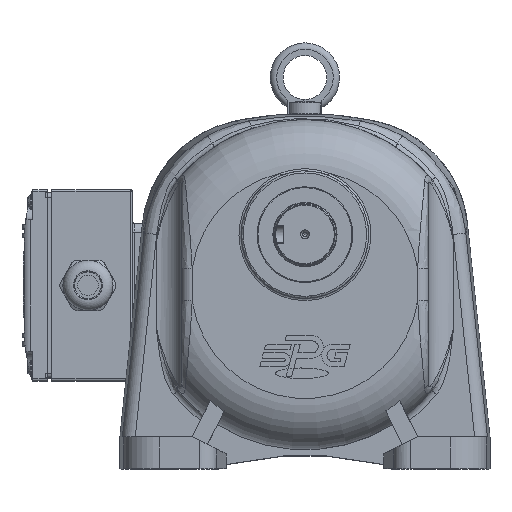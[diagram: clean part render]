
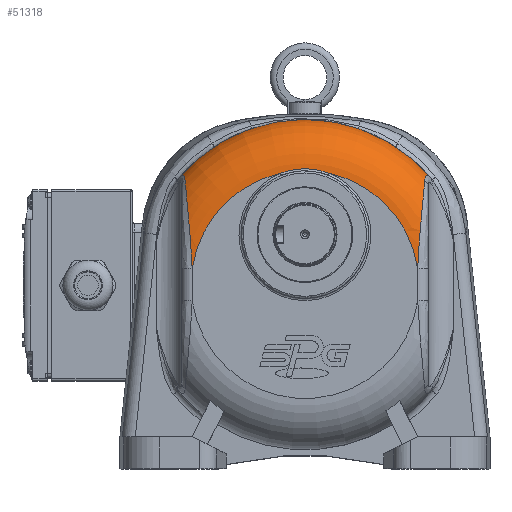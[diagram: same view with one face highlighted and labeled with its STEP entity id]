
A CAD part, top view. The second image highlights one B-rep face of the part: STEP entity #51318.
In plain terms, the highlighted toroidal (fillet/blend) face has major radius 53.545 mm and minor radius 24 mm.
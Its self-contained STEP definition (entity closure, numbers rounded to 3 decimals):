
#158=TOROIDAL_SURFACE('',#55673,53.545,24.);
#527=B_SPLINE_CURVE_WITH_KNOTS('',3,(#81958,#81959,#81960,#81961,#81962),
 .UNSPECIFIED.,.F.,.F.,(4,1,4),(-3.142,-0.449,3.142),
 .UNSPECIFIED.);
#541=B_SPLINE_CURVE_WITH_KNOTS('',3,(#82587,#82588,#82589,#82590,#82591,
#82592,#82593),.UNSPECIFIED.,.F.,.F.,(4,1,1,1,4),(-0.961,-0.686,
-0.412,-0.275,0.),.UNSPECIFIED.);
#543=B_SPLINE_CURVE_WITH_KNOTS('',3,(#82715,#82716,#82717,#82718,#82719,
#82720,#82721,#82722,#82723),.UNSPECIFIED.,.F.,.F.,(4,1,1,1,1,1,4),(-4.098,
-2.927,-2.342,-1.756,-1.171,
-0.585,0.),.UNSPECIFIED.);
#552=B_SPLINE_CURVE_WITH_KNOTS('',3,(#82978,#82979,#82980,#82981,#82982,
#82983,#82984,#82985,#82986),.UNSPECIFIED.,.F.,.F.,(4,1,1,1,1,1,4),(-9.723,
-9.138,-8.553,-7.967,-7.382,
-6.796,-5.626),.UNSPECIFIED.);
#554=B_SPLINE_CURVE_WITH_KNOTS('',3,(#83082,#83083,#83084,#83085,#83086,
#83087,#83088),.UNSPECIFIED.,.F.,.F.,(4,1,1,1,4),(-0.961,-0.686,
-0.412,-0.275,0.),.UNSPECIFIED.);
#11603=FACE_OUTER_BOUND('',#14873,.T.);
#14873=EDGE_LOOP('',(#37387,#37388,#37389,#37390,#37391,#37392,#37393,#37394));
#18331=CIRCLE('',#55565,53.545);
#18333=CIRCLE('',#55567,53.545);
#18398=CIRCLE('',#55672,77.539);
#21979=VERTEX_POINT('',#81750);
#21981=VERTEX_POINT('',#81753);
#21982=VERTEX_POINT('',#81755);
#21983=VERTEX_POINT('',#81757);
#22094=VERTEX_POINT('',#82584);
#22095=VERTEX_POINT('',#82586);
#22107=VERTEX_POINT('',#82976);
#22108=VERTEX_POINT('',#83080);
#27526=EDGE_CURVE('',#21981,#21979,#18331,.T.);
#27528=EDGE_CURVE('',#21983,#21982,#18333,.T.);
#27611=EDGE_CURVE('',#21981,#21982,#527,.T.);
#27660=EDGE_CURVE('',#22094,#22095,#541,.T.);
#27665=EDGE_CURVE('',#21983,#22094,#543,.T.);
#27682=EDGE_CURVE('',#22107,#21979,#552,.T.);
#27686=EDGE_CURVE('',#22108,#22107,#554,.T.);
#27728=EDGE_CURVE('',#22108,#22095,#18398,.T.);
#37387=ORIENTED_EDGE('',*,*,#27728,.T.);
#37388=ORIENTED_EDGE('',*,*,#27660,.F.);
#37389=ORIENTED_EDGE('',*,*,#27665,.F.);
#37390=ORIENTED_EDGE('',*,*,#27528,.T.);
#37391=ORIENTED_EDGE('',*,*,#27611,.F.);
#37392=ORIENTED_EDGE('',*,*,#27526,.T.);
#37393=ORIENTED_EDGE('',*,*,#27682,.F.);
#37394=ORIENTED_EDGE('',*,*,#27686,.F.);
#51318=ADVANCED_FACE('',(#11603),#158,.T.);
#55565=AXIS2_PLACEMENT_3D('',#81754,#64920,#64921);
#55567=AXIS2_PLACEMENT_3D('',#81758,#64924,#64925);
#55672=AXIS2_PLACEMENT_3D('',#83886,#65210,#65211);
#55673=AXIS2_PLACEMENT_3D('',#83918,#65212,#65213);
#64920=DIRECTION('center_axis',(0.,0.,-1.));
#64921=DIRECTION('ref_axis',(-1.,0.,0.));
#64924=DIRECTION('center_axis',(0.,0.,-1.));
#64925=DIRECTION('ref_axis',(-1.,0.,0.));
#65210=DIRECTION('center_axis',(0.,0.,1.));
#65211=DIRECTION('ref_axis',(-1.,0.,0.));
#65212=DIRECTION('center_axis',(0.,0.,-1.));
#65213=DIRECTION('ref_axis',(-1.,0.,0.));
#81750=CARTESIAN_POINT('',(30.191,12.195,36.));
#81753=CARTESIAN_POINT('',(-11.353,56.878,36.));
#81754=CARTESIAN_POINT('Origin',(-22.809,4.573,36.));
#81755=CARTESIAN_POINT('',(-34.266,56.878,36.));
#81757=CARTESIAN_POINT('',(-75.809,12.195,36.));
#81758=CARTESIAN_POINT('Origin',(-22.809,4.573,36.));
#81958=CARTESIAN_POINT('Ctrl Pts',(-11.353,56.878,36.));
#81959=CARTESIAN_POINT('Ctrl Pts',(-14.47,58.095,36.));
#81960=CARTESIAN_POINT('Ctrl Pts',(-22.208,59.772,35.965));
#81961=CARTESIAN_POINT('Ctrl Pts',(-30.11,58.5,36.));
#81962=CARTESIAN_POINT('Ctrl Pts',(-34.266,56.878,36.));
#82584=CARTESIAN_POINT('',(-79.13,53.617,23.368));
#82586=CARTESIAN_POINT('',(-81.935,54.736,12.552));
#82587=CARTESIAN_POINT('Ctrl Pts',(-79.13,53.617,23.368));
#82588=CARTESIAN_POINT('Ctrl Pts',(-79.188,54.283,22.474));
#82589=CARTESIAN_POINT('Ctrl Pts',(-79.389,55.451,20.476));
#82590=CARTESIAN_POINT('Ctrl Pts',(-80.005,56.018,17.62));
#82591=CARTESIAN_POINT('Ctrl Pts',(-80.878,55.77,14.883));
#82592=CARTESIAN_POINT('Ctrl Pts',(-81.504,55.214,13.422));
#82593=CARTESIAN_POINT('Ctrl Pts',(-81.935,54.736,12.552));
#82715=CARTESIAN_POINT('Ctrl Pts',(-75.809,12.195,36.));
#82716=CARTESIAN_POINT('Ctrl Pts',(-75.954,16.119,36.));
#82717=CARTESIAN_POINT('Ctrl Pts',(-76.33,22.075,35.978));
#82718=CARTESIAN_POINT('Ctrl Pts',(-77.022,30.331,35.208));
#82719=CARTESIAN_POINT('Ctrl Pts',(-77.587,36.56,34.021));
#82720=CARTESIAN_POINT('Ctrl Pts',(-78.166,42.825,31.903));
#82721=CARTESIAN_POINT('Ctrl Pts',(-78.705,48.752,28.572));
#82722=CARTESIAN_POINT('Ctrl Pts',(-79.008,52.196,25.275));
#82723=CARTESIAN_POINT('Ctrl Pts',(-79.13,53.617,23.368));
#82976=CARTESIAN_POINT('',(33.511,53.617,23.368));
#82978=CARTESIAN_POINT('Ctrl Pts',(33.511,53.617,23.368));
#82979=CARTESIAN_POINT('Ctrl Pts',(33.389,52.196,25.275));
#82980=CARTESIAN_POINT('Ctrl Pts',(33.086,48.752,28.572));
#82981=CARTESIAN_POINT('Ctrl Pts',(32.547,42.825,31.903));
#82982=CARTESIAN_POINT('Ctrl Pts',(31.968,36.56,34.021));
#82983=CARTESIAN_POINT('Ctrl Pts',(31.403,30.331,35.208));
#82984=CARTESIAN_POINT('Ctrl Pts',(30.711,22.075,35.978));
#82985=CARTESIAN_POINT('Ctrl Pts',(30.335,16.119,36.));
#82986=CARTESIAN_POINT('Ctrl Pts',(30.191,12.195,36.));
#83080=CARTESIAN_POINT('',(36.316,54.736,12.552));
#83082=CARTESIAN_POINT('Ctrl Pts',(36.316,54.736,12.552));
#83083=CARTESIAN_POINT('Ctrl Pts',(35.885,55.214,13.422));
#83084=CARTESIAN_POINT('Ctrl Pts',(35.041,55.97,15.383));
#83085=CARTESIAN_POINT('Ctrl Pts',(34.236,55.956,18.229));
#83086=CARTESIAN_POINT('Ctrl Pts',(33.721,55.146,20.985));
#83087=CARTESIAN_POINT('Ctrl Pts',(33.569,54.283,22.474));
#83088=CARTESIAN_POINT('Ctrl Pts',(33.511,53.617,23.368));
#83886=CARTESIAN_POINT('Origin',(-22.809,4.573,12.552));
#83918=CARTESIAN_POINT('Origin',(-22.809,4.573,12.));
